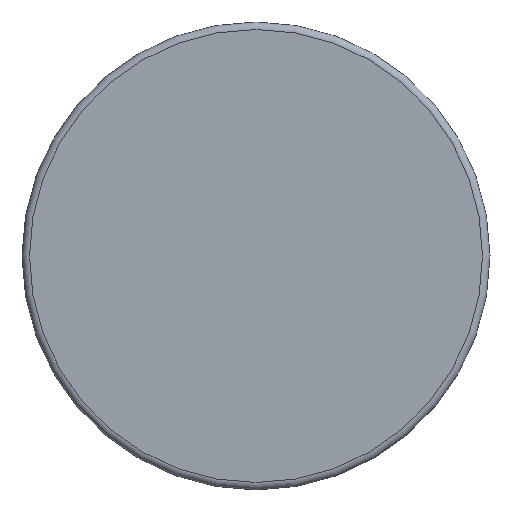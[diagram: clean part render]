
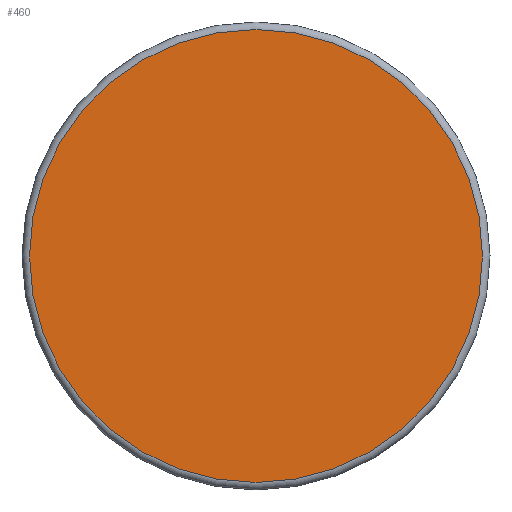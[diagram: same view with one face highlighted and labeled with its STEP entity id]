
A CAD part, top view. The second image highlights one B-rep face of the part: STEP entity #460.
In plain terms, the highlighted planar face has unit normal (0, 0, 1).
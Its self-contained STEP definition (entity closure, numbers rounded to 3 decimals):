
#429=CARTESIAN_POINT('',(300.05,0.,304.));
#430=VERTEX_POINT('',#429);
#431=CARTESIAN_POINT('',(0.,0.,304.));
#432=DIRECTION('',(0.0,0.0,-1.0));
#433=DIRECTION('',(-1.0,0.0,0.0));
#434=AXIS2_PLACEMENT_3D('',#431,#432,#433);
#435=CIRCLE('',#434,300.05);
#436=EDGE_CURVE('',#430,#430,#435,.T.);
#452=CARTESIAN_POINT('',(0.,0.,304.));
#453=DIRECTION('',(0.0,0.0,-1.0));
#454=DIRECTION('',(1.0,0.0,0.0));
#455=AXIS2_PLACEMENT_3D('',#452,#453,#454);
#456=PLANE('',#455);
#457=ORIENTED_EDGE('',*,*,#436,.F.);
#458=EDGE_LOOP('',(#457));
#459=FACE_OUTER_BOUND('',#458,.T.);
#460=ADVANCED_FACE('',(#459),#456,.F.);
